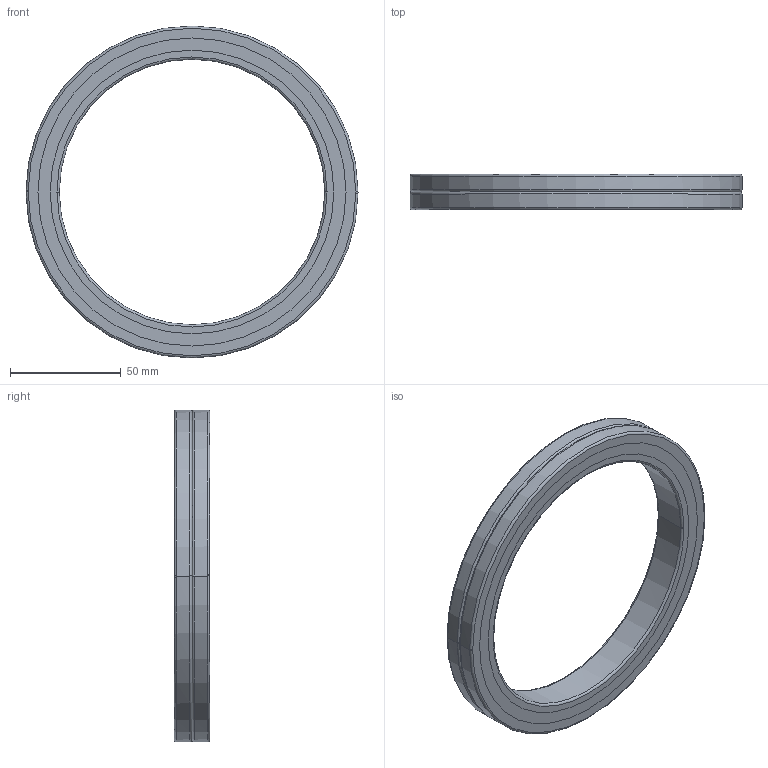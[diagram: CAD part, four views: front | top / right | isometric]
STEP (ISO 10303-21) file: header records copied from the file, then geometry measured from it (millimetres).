
FILE_DESCRIPTION(('no description'),'unknown implementation level');
FILE_NAME('CRBA12016_28.stp',' ',('HIWIN GmbH'),('CADClick - KiM GmbH - www.kimweb.de'),'unknown preprocess','ACIS','unknown authorization');
FILE_SCHEMA(('automotive_design'));
Length unit declared in the file: millimetre
Products named in the file (5): CRBA12016_1; CRBA12016_2; CRBA12016_3; CRBA12016_4; CRBA12016
Bounding box: 150 x 16 x 150 mm (x, y, z)
Volume: 73499.8 mm3; surface area: 51489.3 mm2
Topology: 5 solids, 5 shells, 54 faces, 120 edges, 76 vertices
Faces by surface type: torus 24, cylinder 20, plane 10
Entity records: 3096 total; most frequent: DIRECTION 338, STYLED_ITEM 255, PRESENTATION_STYLE_ASSIGNMENT 255, CARTESIAN_POINT 255, COLOUR_RGB 255, ORIENTED_EDGE 240, AXIS2_PLACEMENT_3D 159, EDGE_CURVE 120
